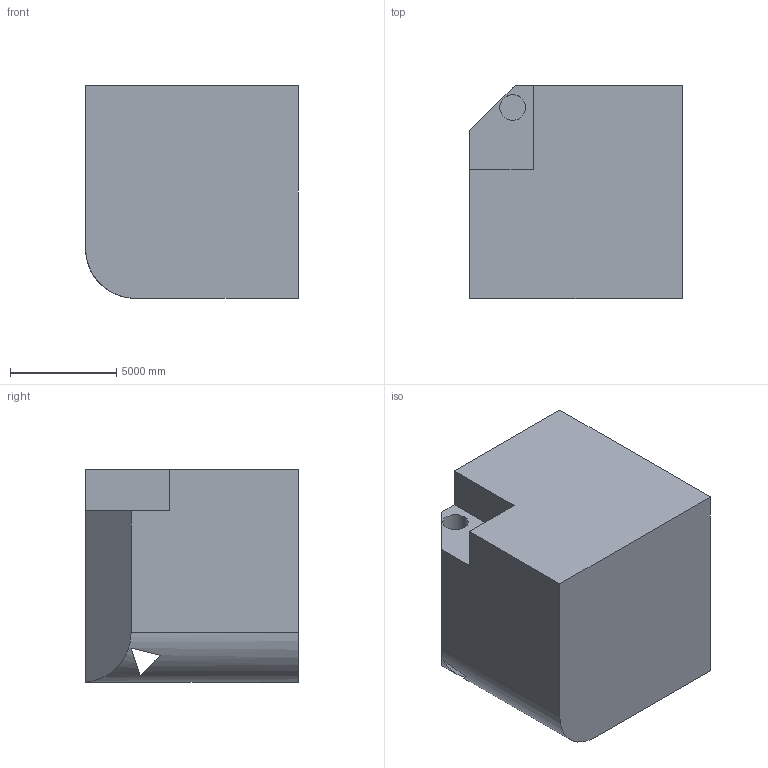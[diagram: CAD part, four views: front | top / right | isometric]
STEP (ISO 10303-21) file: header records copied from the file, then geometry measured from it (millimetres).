
FILE_DESCRIPTION (( 'STEP AP203' ), '1' );
FILE_NAME ('141.STEP', '2022-09-06T13:23:02', ( 'user' ), ( '' ), 'SwSTEP 2.0', 'SolidWorks 2021', '' );
FILE_SCHEMA (( 'CONFIG_CONTROL_DESIGN' ));
Length unit declared in the file: centimetre
Products named in the file (1): 141
Bounding box: 10000 x 10000 x 10000 mm (x, y, z)
Volume: 938388024306.3 mm3; surface area: 620408807.6 mm2
Topology: 1 solids, 1 shells, 17 faces, 42 edges, 28 vertices
Faces by surface type: plane 14, cylinder 3
Entity records: 583 total; most frequent: CARTESIAN_POINT 100, ORIENTED_EDGE 84, DIRECTION 80, EDGE_CURVE 42, VECTOR 32, LINE 32, VERTEX_POINT 28, AXIS2_PLACEMENT_3D 24
